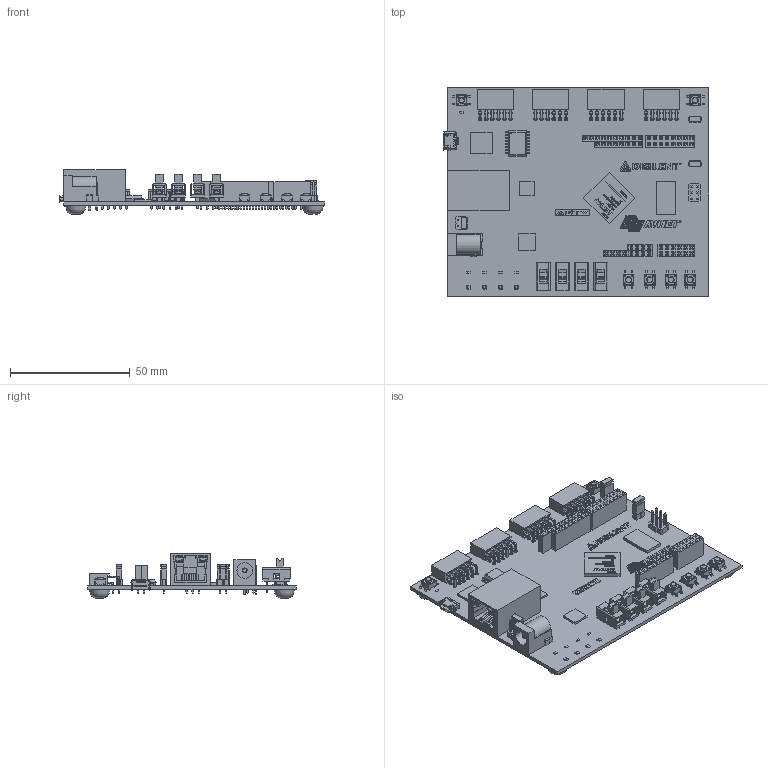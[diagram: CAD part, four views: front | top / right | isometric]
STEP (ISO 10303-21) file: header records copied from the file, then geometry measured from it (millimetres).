
FILE_DESCRIPTION(/* description */ ('Alibre Inc.'),/* implementation_level */ '2;1');
FILE_NAME(/* name */ 'export0',/* time_stamp */ '2016-05-04T13:31:29-07:00',/* author */ (''),/* organization */ (''),/* preprocessor_version */ 'ST-DEVELOPER v14',/* originating_system */ 'Alibre',/* authorisation */ '');
FILE_SCHEMA (('AUTOMOTIVE_DESIGN'));
Length unit declared in the file: inch
Products named in the file (45): CUI_PJ-102A; 476540001
Bounding box: 111 x 87 x 18.7 mm (x, y, z)
Volume: 27705.4 mm3; surface area: 41222.9 mm2
Topology: 129 solids, 129 shells, 7787 faces, 20512 edges, 12844 vertices
Faces by surface type: plane 5476, cylinder 1294, bspline 560, torus 211, sphere 208, extrusion 28, cone 6, revolution 4
Full cylindrical faces by diameter (mm): 0.818 x24, 1.5 x120, 2.57 x2, 5.06 x1
Entity records: 147895 total; most frequent: CARTESIAN_POINT 30288, ORIENTED_EDGE 25118, DIRECTION 18477, EDGE_CURVE 12559, VECTOR 10107, LINE 10079, VERTEX_POINT 8128, AXIS2_PLACEMENT_3D 5948
